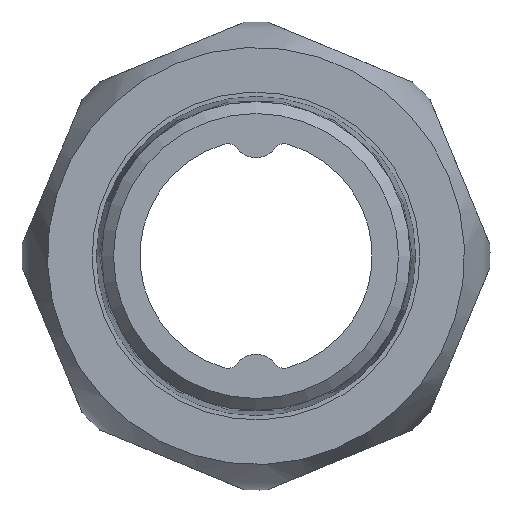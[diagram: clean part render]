
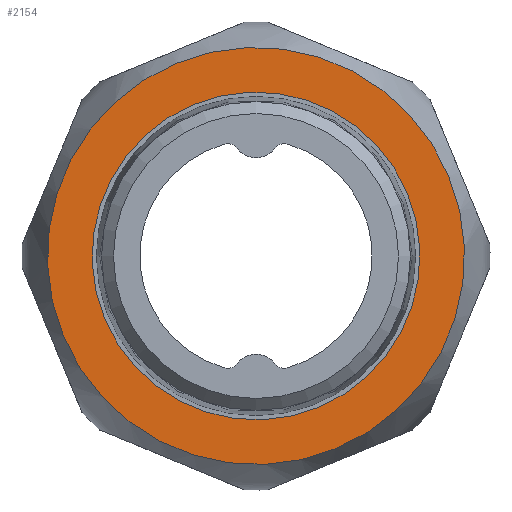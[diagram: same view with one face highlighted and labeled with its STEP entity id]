
A CAD part, left-side view. The second image highlights one B-rep face of the part: STEP entity #2154.
In plain terms, the highlighted planar face has unit normal (-1, 0, 0).
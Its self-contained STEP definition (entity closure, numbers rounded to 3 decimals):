
#2091=CARTESIAN_POINT('',(0.0,17.5,0.0));
#2092=VERTEX_POINT('',#2091);
#2093=CARTESIAN_POINT('',(0.0,0.0,0.0));
#2094=DIRECTION('',(1.0,0.0,0.0));
#2095=DIRECTION('',(0.0,1.0,0.0));
#2096=AXIS2_PLACEMENT_3D('',#2093,#2094,#2095);
#2097=CIRCLE('',#2096,17.5);
#2098=EDGE_CURVE('',#2092,#2092,#2097,.T.);
#2128=CARTESIAN_POINT('',(0.0,13.75,0.0));
#2129=VERTEX_POINT('',#2128);
#2130=CARTESIAN_POINT('',(0.0,0.0,0.0));
#2131=DIRECTION('',(1.0,0.0,0.0));
#2132=DIRECTION('',(0.0,1.0,0.0));
#2133=AXIS2_PLACEMENT_3D('',#2130,#2131,#2132);
#2134=CIRCLE('',#2133,13.75);
#2135=EDGE_CURVE('',#2129,#2129,#2134,.T.);
#2143=CARTESIAN_POINT('',(0.0,15.625,0.0));
#2144=DIRECTION('',(-1.0,0.0,0.0));
#2145=DIRECTION('',(0.0,0.0,1.0));
#2146=AXIS2_PLACEMENT_3D('',#2143,#2144,#2145);
#2147=PLANE('',#2146);
#2148=ORIENTED_EDGE('',*,*,#2098,.F.);
#2149=EDGE_LOOP('',(#2148));
#2150=FACE_OUTER_BOUND('',#2149,.T.);
#2151=ORIENTED_EDGE('',*,*,#2135,.T.);
#2152=EDGE_LOOP('',(#2151));
#2153=FACE_BOUND('',#2152,.T.);
#2154=ADVANCED_FACE('',(#2150,#2153),#2147,.T.);
